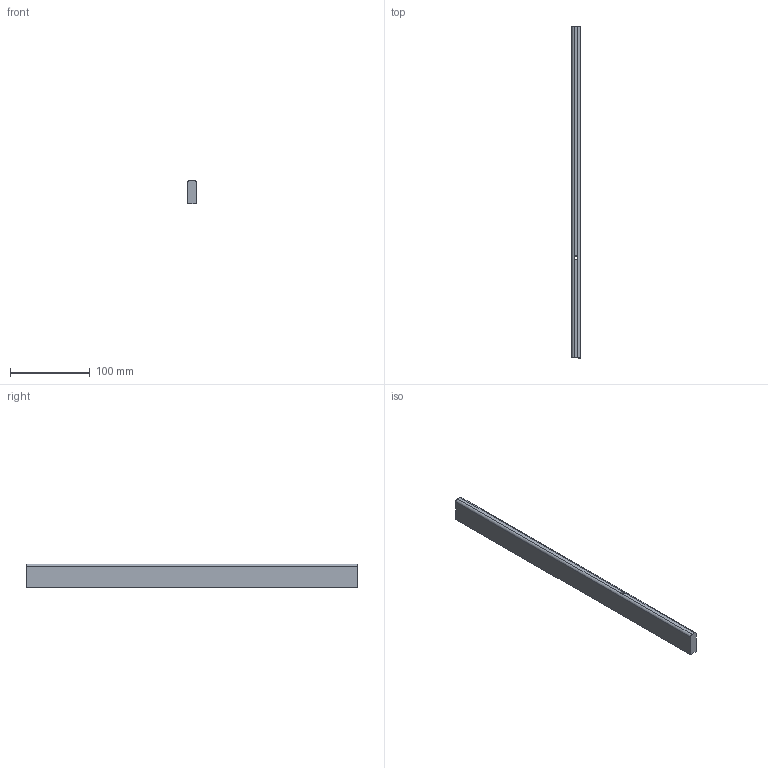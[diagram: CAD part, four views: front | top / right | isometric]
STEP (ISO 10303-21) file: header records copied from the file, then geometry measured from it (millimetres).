
FILE_DESCRIPTION (( 'STEP AP214' ), '1' );
FILE_NAME ('_Seitenreling_SP60702400_RL417,1.step', '2010-09-06T14:52:03', ( 'grass' ), ( '' ), 'SwSTEP 2.0', 'SolidWorks 2010', '' );
FILE_SCHEMA (( 'AUTOMOTIVE_DESIGN' ));
Length unit declared in the file: millimetre
Products named in the file (1): _Seitenreling_SP60702400_RL417,1
Bounding box: 10.5 x 417.1 x 30 mm (x, y, z)
Volume: 128856.3 mm3; surface area: 33871.6 mm2
Topology: 1 solids, 1 shells, 14 faces, 34 edges, 22 vertices
Faces by surface type: plane 8, cylinder 6
Entity records: 454 total; most frequent: DIRECTION 78, CARTESIAN_POINT 71, ORIENTED_EDGE 68, EDGE_CURVE 34, AXIS2_PLACEMENT_3D 29, VERTEX_POINT 22, VECTOR 20, LINE 20
